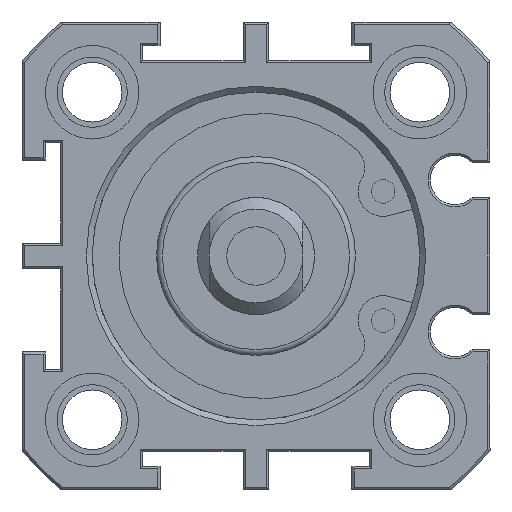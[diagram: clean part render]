
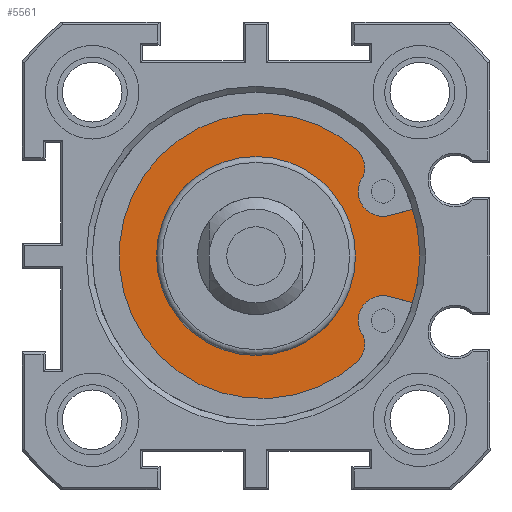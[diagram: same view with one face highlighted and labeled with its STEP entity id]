
A CAD part, front view. The second image highlights one B-rep face of the part: STEP entity #5561.
In plain terms, the highlighted planar face has unit normal (0, -1, 0).
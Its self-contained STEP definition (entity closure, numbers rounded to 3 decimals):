
#34=LINE('',#7432,#390);
#35=LINE('',#7444,#391);
#390=VECTOR('',#6287,1000.);
#391=VECTOR('',#6298,1000.);
#897=ORIENTED_EDGE('',*,*,#1915,.T.);
#898=ORIENTED_EDGE('',*,*,#1918,.F.);
#899=ORIENTED_EDGE('',*,*,#1919,.T.);
#900=ORIENTED_EDGE('',*,*,#1920,.T.);
#901=ORIENTED_EDGE('',*,*,#1921,.T.);
#902=ORIENTED_EDGE('',*,*,#1922,.T.);
#903=ORIENTED_EDGE('',*,*,#1923,.T.);
#904=ORIENTED_EDGE('',*,*,#1924,.T.);
#905=ORIENTED_EDGE('',*,*,#1925,.T.);
#1915=EDGE_CURVE('',#2430,#2430,#2757,.T.);
#1918=EDGE_CURVE('',#2433,#2434,#2760,.T.);
#1919=EDGE_CURVE('',#2433,#2435,#34,.T.);
#1920=EDGE_CURVE('',#2435,#2436,#2761,.T.);
#1921=EDGE_CURVE('',#2436,#2437,#2762,.T.);
#1922=EDGE_CURVE('',#2437,#2438,#2763,.T.);
#1923=EDGE_CURVE('',#2438,#2439,#2764,.T.);
#1924=EDGE_CURVE('',#2439,#2440,#2765,.T.);
#1925=EDGE_CURVE('',#2440,#2434,#35,.T.);
#2430=VERTEX_POINT('',#7421);
#2433=VERTEX_POINT('',#7430);
#2434=VERTEX_POINT('',#7431);
#2435=VERTEX_POINT('',#7433);
#2436=VERTEX_POINT('',#7435);
#2437=VERTEX_POINT('',#7437);
#2438=VERTEX_POINT('',#7439);
#2439=VERTEX_POINT('',#7441);
#2440=VERTEX_POINT('',#7443);
#2757=CIRCLE('',#5839,8.5);
#2760=CIRCLE('',#5845,14.7);
#2761=CIRCLE('',#5846,2.134);
#2762=CIRCLE('',#5847,2.134);
#2763=CIRCLE('',#5848,12.185);
#2764=CIRCLE('',#5849,2.134);
#2765=CIRCLE('',#5850,2.134);
#2898=EDGE_LOOP('',(#897));
#2899=EDGE_LOOP('',(#898,#899,#900,#901,#902,#903,#904,#905));
#3232=FACE_BOUND('',#2898,.T.);
#3233=FACE_BOUND('',#2899,.T.);
#3552=PLANE('',#5844);
#5561=ADVANCED_FACE('',(#3232,#3233),#3552,.F.);
#5839=AXIS2_PLACEMENT_3D('',#7420,#6273,#6274);
#5844=AXIS2_PLACEMENT_3D('',#7428,#6283,#6284);
#5845=AXIS2_PLACEMENT_3D('',#7429,#6285,#6286);
#5846=AXIS2_PLACEMENT_3D('',#7434,#6288,#6289);
#5847=AXIS2_PLACEMENT_3D('',#7436,#6290,#6291);
#5848=AXIS2_PLACEMENT_3D('',#7438,#6292,#6293);
#5849=AXIS2_PLACEMENT_3D('',#7440,#6294,#6295);
#5850=AXIS2_PLACEMENT_3D('',#7442,#6296,#6297);
#6273=DIRECTION('',(0.,1.,0.));
#6274=DIRECTION('',(0.,0.,1.));
#6283=DIRECTION('',(0.,1.,0.));
#6284=DIRECTION('',(0.,0.,1.));
#6285=DIRECTION('',(0.,1.,0.));
#6286=DIRECTION('',(0.,0.,1.));
#6287=DIRECTION('',(-0.966,0.,-0.259));
#6288=DIRECTION('',(0.,1.,0.));
#6289=DIRECTION('',(1.,0.,0.));
#6290=DIRECTION('',(0.,-1.,0.));
#6291=DIRECTION('',(-1.,0.,0.));
#6292=DIRECTION('',(0.,-1.,0.));
#6293=DIRECTION('',(1.,0.,0.));
#6294=DIRECTION('',(0.,-1.,0.));
#6295=DIRECTION('',(-1.,0.,0.));
#6296=DIRECTION('',(0.,1.,0.));
#6297=DIRECTION('',(1.,0.,0.));
#6298=DIRECTION('',(0.966,0.,-0.259));
#7420=CARTESIAN_POINT('',(0.,3.,0.));
#7421=CARTESIAN_POINT('',(0.,3.,8.5));
#7428=CARTESIAN_POINT('',(0.,3.,-2.1));
#7429=CARTESIAN_POINT('',(0.,3.,0.));
#7430=CARTESIAN_POINT('',(14.095,3.,4.175));
#7431=CARTESIAN_POINT('',(14.095,3.,-4.175));
#7432=CARTESIAN_POINT('',(14.095,3.,4.175));
#7433=CARTESIAN_POINT('',(11.419,3.,3.458));
#7434=CARTESIAN_POINT('',(10.866,3.,5.52));
#7435=CARTESIAN_POINT('',(9.146,3.,6.783));
#7436=CARTESIAN_POINT('',(7.151,3.,7.541));
#7437=CARTESIAN_POINT('',(8.751,3.,8.953));
#7438=CARTESIAN_POINT('',(0.486,3.,0.));
#7439=CARTESIAN_POINT('',(8.751,3.,-8.953));
#7440=CARTESIAN_POINT('',(7.151,3.,-7.541));
#7441=CARTESIAN_POINT('',(9.146,3.,-6.783));
#7442=CARTESIAN_POINT('',(10.866,3.,-5.52));
#7443=CARTESIAN_POINT('',(11.419,3.,-3.458));
#7444=CARTESIAN_POINT('',(11.419,3.,-3.458));
